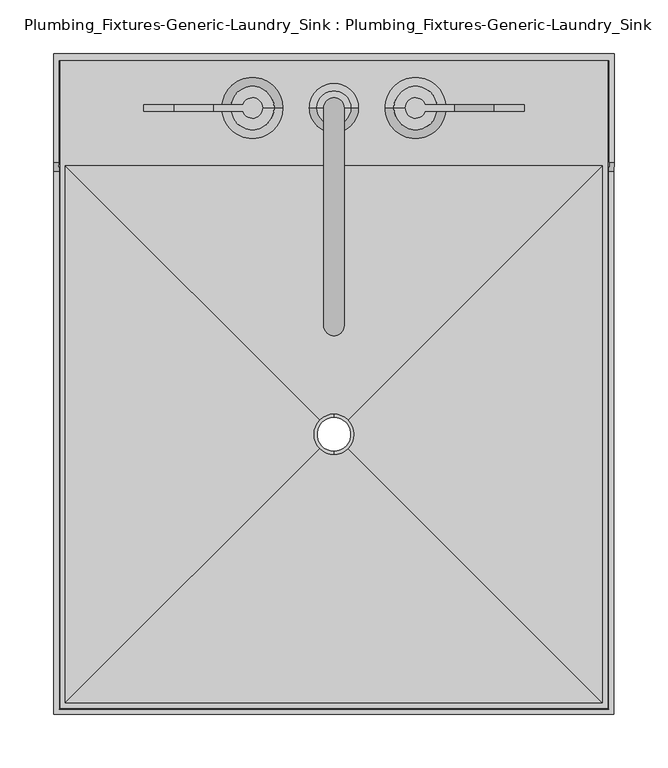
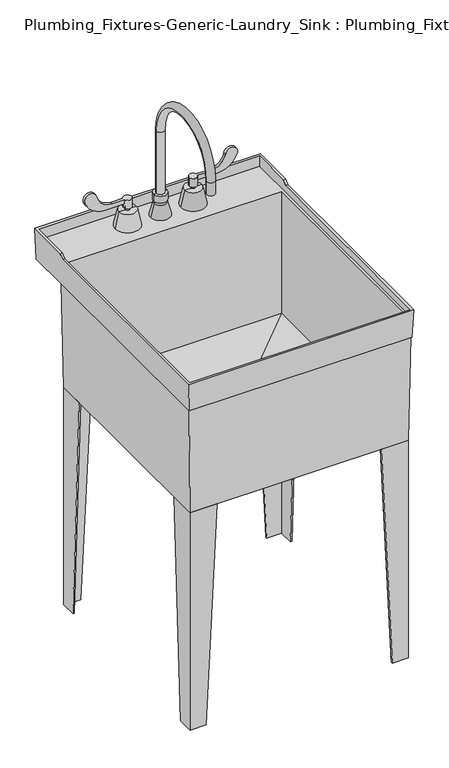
"""IFC4 building model written with IfcOpenShell, lengths in millimetres: flow terminal geometry, Plumbing_Fixtures-Generic-Laundry_Sink : Plumbing_Fixtures-Generic-Laundry_Sink."""

from ifc_helpers import new_model, si_unit, point, frame, frame_2d, origin, place, context, project, spatial, polyline, circle_curve, ellipse_curve, trimmed, segment, composite_curve, outline, extrude, faceted_brep, source, transform, mapped, element, save
from ifc_brep_helpers import plane_surface, cylinder_surface, revolved_surface, advanced_brep


def plumbing_fixtures_generic_laundry_sink_plumbing_fixtures_38895788(model_context):
    return source(origin(), model_context, "Body", "SolidModel", [
        advanced_brep(
        [(129.6645066, 250.825, 894.7546875), (176.757367, 250.825, 926.5046875), (149.5501354, 250.825, 934.8931818), (112.3171633, 250.825, 904.875), (85.1802561, 250.825, 904.875), (85.1802561, 250.825, 894.7546875), (112.3171633, 257.175, 904.875), (149.5501354, 257.175, 934.8931818), (176.757367, 257.175, 926.5046875), (129.6645066, 257.175, 894.7546875), (85.1802561, 257.175, 894.7546875), (85.1802561, 257.175, 904.875), (66.675, 254.0, 904.875), (85.725, 254.0, 894.7546875), (55.959375, 254.0, 877.09375), (96.440625, 254.0, 877.09375), (104.775, 254.0, 838.2), (47.625, 254.0, 838.2), (71.040625, 254.0, 877.09375), (81.359375, 254.0, 877.09375), (71.040625, 254.0, 884.2375), (81.359375, 254.0, 884.2375), (66.675, 254.0, 884.2375), (85.725, 254.0, 884.2375), (76.2, 254.0, 838.2)],
        [
            (0, 1, circle_curve(frame((129.6645066, 250.825, 945.5546875), z_axis=(0.0, -1.0, 0.0), x_axis=(1.0, 0.0, 0.0)), 50.8)),
            (1, 2, circle_curve(frame((163.5125, 250.825, 931.8625), z_axis=(0.0, -1.0, 0.0), x_axis=(1.0, 0.0, 0.0)), 14.2875)),
            (2, 3, circle_curve(frame((112.3171633, 250.825, 942.975), z_axis=(0.0, 1.0, 0.0), x_axis=(1.0, 0.0, 0.0)), 38.1)),
            (3, 4),
            (4, 5),
            (5, 0),
            (6, 7, circle_curve(frame((112.3171633, 257.175, 942.975), z_axis=(0.0, -1.0, 0.0), x_axis=(1.0, 0.0, 0.0)), 38.1)),
            (7, 8, circle_curve(frame((163.5125, 257.175, 931.8625), z_axis=(0.0, 1.0, 0.0), x_axis=(1.0, 0.0, 0.0)), 14.2875)),
            (8, 9, circle_curve(frame((129.6645066, 257.175, 945.5546875), z_axis=(0.0, 1.0, 0.0), x_axis=(1.0, 0.0, 0.0)), 50.8)),
            (9, 10),
            (10, 11),
            (11, 6),
            (3, 6),
            (11, 12, circle_curve(frame((76.2, 254.0, 904.875), z_axis=(0.0, 0.0, 1.0), x_axis=(1.0, 0.0, 0.0)), 9.525)),
            (12, 4, circle_curve(frame((76.2, 254.0, 904.875), z_axis=(0.0, 0.0, 1.0), x_axis=(1.0, 0.0, 0.0)), 9.525)),
            (9, 0),
            (5, 13, circle_curve(frame((76.2, 254.0, 894.7546875), z_axis=(0.0, 0.0, 1.0), x_axis=(1.0, 0.0, 0.0)), 9.525)),
            (13, 10, circle_curve(frame((76.2, 254.0, 894.7546875), z_axis=(0.0, 0.0, 1.0), x_axis=(1.0, 0.0, 0.0)), 9.525)),
            (8, 1),
            (7, 2),
            (14, 15, circle_curve(frame((76.2, 254.0, 877.09375), z_axis=(0.0, 0.0, -1.0), x_axis=(1.0, 0.0, 0.0)), 20.240625)),
            (15, 16),
            (16, 17, circle_curve(frame((76.2, 254.0, 838.2), z_axis=(0.0, 0.0, 1.0), x_axis=(1.0, 0.0, 0.0)), 28.575)),
            (17, 14),
            (15, 14, circle_curve(frame((76.2, 254.0, 877.09375), z_axis=(0.0, 0.0, -1.0), x_axis=(1.0, 0.0, 0.0)), 20.240625)),
            (17, 16, circle_curve(frame((76.2, 254.0, 838.2), z_axis=(0.0, 0.0, 1.0), x_axis=(1.0, 0.0, 0.0)), 28.575)),
            (14, 18),
            (18, 19, circle_curve(frame((76.2, 254.0, 877.09375), z_axis=(0.0, 0.0, -1.0), x_axis=(1.0, 0.0, 0.0)), 5.159375)),
            (19, 15),
            (19, 18, circle_curve(frame((76.2, 254.0, 877.09375), z_axis=(0.0, 0.0, -1.0), x_axis=(1.0, 0.0, 0.0)), 5.159375)),
            (18, 20),
            (20, 21, circle_curve(frame((76.2, 254.0, 884.2375), z_axis=(0.0, 0.0, -1.0), x_axis=(1.0, 0.0, 0.0)), 5.159375)),
            (21, 19),
            (21, 20, circle_curve(frame((76.2, 254.0, 884.2375), z_axis=(0.0, 0.0, -1.0), x_axis=(1.0, 0.0, 0.0)), 5.159375)),
            (20, 22),
            (22, 23, circle_curve(frame((76.2, 254.0, 884.2375), z_axis=(0.0, 0.0, -1.0), x_axis=(1.0, 0.0, 0.0)), 9.525)),
            (23, 21),
            (23, 22, circle_curve(frame((76.2, 254.0, 884.2375), z_axis=(0.0, 0.0, -1.0), x_axis=(1.0, 0.0, 0.0)), 9.525)),
            (22, 12),
            (13, 23),
            (16, 24),
            (24, 17),
        ],
        [
            plane_surface(frame((76.2, 250.825, 904.875), z_axis=(0.0, -1.0, 0.0), x_axis=(-1.0, 0.0, 0.0))),
            plane_surface(frame((76.2, 257.175, 904.875), z_axis=(0.0, 1.0, 0.0), x_axis=(1.0, 0.0, 0.0))),
            plane_surface(frame((112.3171633, 250.825, 904.875), z_axis=(0.0, 0.0, 1.0), x_axis=(0.0, 1.0, 0.0))),
            plane_surface(frame((76.2, 250.825, 894.7546875), z_axis=(0.0, 0.0, -1.0), x_axis=(0.0, 1.0, 0.0))),
            cylinder_surface(frame((129.6645066, 257.175, 945.5546875), z_axis=(0.0, -1.0, 0.0), x_axis=(1.0, 0.0, 0.0)), 50.8),
            cylinder_surface(frame((163.5125, 257.175, 931.8625), z_axis=(0.0, -1.0, 0.0), x_axis=(1.0, 0.0, 0.0)), 14.2875),
            revolved_surface(polyline([(150.4171633, 257.175, 942.975), (150.4171633, 250.825, 942.975)]), (112.3171633, 257.175, 942.975), (0.0, 1.0, 0.0)),
            revolved_surface(polyline([(104.775, 254.0, 838.2), (96.440625, 254.0, 877.09375)]), (76.2, 254.0, 1976.4613422), (0.0, 0.0, 1.0)),
            plane_surface(frame((76.2, 254.0, 877.09375), z_axis=(0.0, 0.0, 1.0), x_axis=(1.0, 0.0, 0.0))),
            cylinder_surface(frame((76.2, 254.0, 1976.4613422), z_axis=(0.0, 0.0, 1.0), x_axis=(1.0, 0.0, 0.0)), 5.159375),
            plane_surface(frame((76.2, 254.0, 884.2375), z_axis=(0.0, 0.0, -1.0), x_axis=(1.0, 0.0, 0.0))),
            cylinder_surface(frame((76.2, 254.0, 1976.4613422), z_axis=(0.0, 0.0, 1.0), x_axis=(1.0, 0.0, 0.0)), 9.525),
            plane_surface(frame((76.2, 254.0, 838.2), z_axis=(0.0, 0.0, -1.0), x_axis=(1.0, 0.0, 0.0))),
        ],
        [
            (0, [[1, 2, 3, 4, 5, 6]]),
            (1, [[7, 8, 9, 10, 11, 12]]),
            (2, [[13, -12, 14, 15, -4]]),
            (3, [[16, -6, 17, 18, -10]]),
            (4, [[-1, -16, -9, 19]]),
            (5, [[-2, -19, -8, 20]]),
            (6, [[-3, -20, -7, -13]]),
            (7, [[21, 22, 23, 24]]),
            (7, [[-22, 25, -24, 26]]),
            (8, [[-21, 27, 28, 29]]),
            (8, [[-25, -29, 30, -27]]),
            (9, [[-28, 31, 32, 33]]),
            (9, [[-30, -33, 34, -31]]),
            (10, [[-32, 35, 36, 37]]),
            (10, [[-34, -37, 38, -35]]),
            (11, [[-36, 39, -14, -11, -18, 40]]),
            (11, [[-38, -40, -17, -5, -15, -39]]),
            (12, [[-23, 41, 42]]),
            (12, [[-26, -42, -41]]),
        ],
    ),
        advanced_brep(
        [(-112.3171633, 250.825, 904.875), (-149.5501354, 250.825, 934.8931818), (-176.757367, 250.825, 926.5046875), (-129.6645066, 250.825, 894.7546875), (-85.1802561, 250.825, 894.7546875), (-85.1802561, 250.825, 904.875), (-129.6645066, 257.175, 894.7546875), (-176.757367, 257.175, 926.5046875), (-149.5501354, 257.175, 934.8931818), (-112.3171633, 257.175, 904.875), (-85.1802561, 257.175, 904.875), (-85.1802561, 257.175, 894.7546875), (-66.675, 254.0, 904.875), (-85.725, 254.0, 894.7546875), (-47.625, 254.0, 838.2), (-104.775, 254.0, 838.2), (-96.440625, 254.0, 877.09375), (-55.959375, 254.0, 877.09375), (-81.359375, 254.0, 877.09375), (-71.040625, 254.0, 877.09375), (-81.359375, 254.0, 884.2375), (-71.040625, 254.0, 884.2375), (-85.725, 254.0, 884.2375), (-66.675, 254.0, 884.2375), (-76.2, 254.0, 838.2)],
        [
            (0, 1, circle_curve(frame((-112.3171633, 250.825, 942.975), z_axis=(0.0, 1.0, 0.0), x_axis=(-1.0, 0.0, 0.0)), 38.1)),
            (1, 2, circle_curve(frame((-163.5125, 250.825, 931.8625), z_axis=(0.0, -1.0, 0.0), x_axis=(-1.0, 0.0, 0.0)), 14.2875)),
            (2, 3, circle_curve(frame((-129.6645066, 250.825, 945.5546875), z_axis=(0.0, -1.0, 0.0), x_axis=(-1.0, 0.0, 0.0)), 50.8)),
            (3, 4),
            (4, 5),
            (5, 0),
            (6, 7, circle_curve(frame((-129.6645066, 257.175, 945.5546875), z_axis=(0.0, 1.0, 0.0), x_axis=(-1.0, 0.0, 0.0)), 50.8)),
            (7, 8, circle_curve(frame((-163.5125, 257.175, 931.8625), z_axis=(0.0, 1.0, 0.0), x_axis=(-1.0, 0.0, 0.0)), 14.2875)),
            (8, 9, circle_curve(frame((-112.3171633, 257.175, 942.975), z_axis=(0.0, -1.0, 0.0), x_axis=(-1.0, 0.0, 0.0)), 38.1)),
            (9, 10),
            (10, 11),
            (11, 6),
            (9, 0),
            (5, 12, circle_curve(frame((-76.2, 254.0, 904.875), z_axis=(0.0, 0.0, 1.0), x_axis=(-1.0, 0.0, 0.0)), 9.525)),
            (12, 10, circle_curve(frame((-76.2, 254.0, 904.875), z_axis=(0.0, 0.0, 1.0), x_axis=(-1.0, 0.0, 0.0)), 9.525)),
            (3, 6),
            (11, 13, circle_curve(frame((-76.2, 254.0, 894.7546875), z_axis=(0.0, 0.0, 1.0), x_axis=(-1.0, 0.0, 0.0)), 9.525)),
            (13, 4, circle_curve(frame((-76.2, 254.0, 894.7546875), z_axis=(0.0, 0.0, 1.0), x_axis=(-1.0, 0.0, 0.0)), 9.525)),
            (2, 7),
            (1, 8),
            (14, 15, circle_curve(frame((-76.2, 254.0, 838.2), z_axis=(0.0, 0.0, 1.0), x_axis=(-1.0, 0.0, 0.0)), 28.575)),
            (15, 16),
            (16, 17, circle_curve(frame((-76.2, 254.0, 877.09375), z_axis=(0.0, 0.0, -1.0), x_axis=(-1.0, 0.0, 0.0)), 20.240625)),
            (17, 14),
            (15, 14, circle_curve(frame((-76.2, 254.0, 838.2), z_axis=(0.0, 0.0, 1.0), x_axis=(-1.0, 0.0, 0.0)), 28.575)),
            (17, 16, circle_curve(frame((-76.2, 254.0, 877.09375), z_axis=(0.0, 0.0, -1.0), x_axis=(-1.0, 0.0, 0.0)), 20.240625)),
            (16, 18),
            (18, 19, circle_curve(frame((-76.2, 254.0, 877.09375), z_axis=(0.0, 0.0, -1.0), x_axis=(-1.0, 0.0, 0.0)), 5.159375)),
            (19, 17),
            (19, 18, circle_curve(frame((-76.2, 254.0, 877.09375), z_axis=(0.0, 0.0, -1.0), x_axis=(-1.0, 0.0, 0.0)), 5.159375)),
            (18, 20),
            (20, 21, circle_curve(frame((-76.2, 254.0, 884.2375), z_axis=(0.0, 0.0, -1.0), x_axis=(-1.0, 0.0, 0.0)), 5.159375)),
            (21, 19),
            (21, 20, circle_curve(frame((-76.2, 254.0, 884.2375), z_axis=(0.0, 0.0, -1.0), x_axis=(-1.0, 0.0, 0.0)), 5.159375)),
            (20, 22),
            (22, 23, circle_curve(frame((-76.2, 254.0, 884.2375), z_axis=(0.0, 0.0, -1.0), x_axis=(-1.0, 0.0, 0.0)), 9.525)),
            (23, 21),
            (23, 22, circle_curve(frame((-76.2, 254.0, 884.2375), z_axis=(0.0, 0.0, -1.0), x_axis=(-1.0, 0.0, 0.0)), 9.525)),
            (22, 13),
            (12, 23),
            (14, 24),
            (24, 15),
        ],
        [
            plane_surface(frame((-150.4171633, 250.825, 942.975), z_axis=(0.0, -1.0, 0.0), x_axis=(0.0, 0.0, 1.0))),
            plane_surface(frame((-150.4171633, 257.175, 942.975), z_axis=(0.0, 1.0, 0.0), x_axis=(0.0, 0.0, -1.0))),
            plane_surface(frame((-76.2, 250.825, 904.875), z_axis=(0.0, 0.0, 1.0), x_axis=(0.0, 1.0, 0.0))),
            plane_surface(frame((-129.6645066, 250.825, 894.7546875), z_axis=(0.0, 0.0, -1.0), x_axis=(0.0, 1.0, 0.0))),
            cylinder_surface(frame((-129.6645066, 257.175, 945.5546875), z_axis=(0.0, -1.0, 0.0), x_axis=(-1.0, 0.0, 0.0)), 50.8),
            cylinder_surface(frame((-163.5125, 257.175, 931.8625), z_axis=(0.0, -1.0, 0.0), x_axis=(-1.0, 0.0, 0.0)), 14.2875),
            revolved_surface(polyline([(-150.4171633, 257.175, 942.975), (-150.4171633, 250.825, 942.975)]), (-112.3171633, 257.175, 942.975), (0.0, 1.0, 0.0)),
            revolved_surface(polyline([(-96.440625, 254.0, 877.09375), (-104.775, 254.0, 838.2)]), (-76.2, 254.0, 1976.4613422), (0.0, 0.0, -1.0)),
            plane_surface(frame((-76.2, 254.0, 877.09375), z_axis=(0.0, 0.0, 1.0), x_axis=(-1.0, 0.0, 0.0))),
            cylinder_surface(frame((-76.2, 254.0, 1976.4613422), z_axis=(0.0, 0.0, -1.0), x_axis=(-1.0, 0.0, 0.0)), 5.159375),
            plane_surface(frame((-76.2, 254.0, 884.2375), z_axis=(0.0, 0.0, -1.0), x_axis=(-1.0, 0.0, 0.0))),
            cylinder_surface(frame((-76.2, 254.0, 1976.4613422), z_axis=(0.0, 0.0, -1.0), x_axis=(-1.0, 0.0, 0.0)), 9.525),
            plane_surface(frame((-76.2, 254.0, 838.2), z_axis=(0.0, 0.0, -1.0), x_axis=(-1.0, 0.0, 0.0))),
        ],
        [
            (0, [[1, 2, 3, 4, 5, 6]]),
            (1, [[7, 8, 9, 10, 11, 12]]),
            (2, [[13, -6, 14, 15, -10]]),
            (3, [[16, -12, 17, 18, -4]]),
            (4, [[-3, 19, -7, -16]]),
            (5, [[-2, 20, -8, -19]]),
            (6, [[-1, -13, -9, -20]]),
            (7, [[21, 22, 23, 24]]),
            (7, [[-22, 25, -24, 26]]),
            (8, [[-23, 27, 28, 29]]),
            (8, [[-26, -29, 30, -27]]),
            (9, [[-28, 31, 32, 33]]),
            (9, [[-30, -33, 34, -31]]),
            (10, [[-32, 35, 36, 37]]),
            (10, [[-34, -37, 38, -35]]),
            (11, [[-36, 39, -17, -11, -15, 40]]),
            (11, [[-38, -40, -14, -5, -18, -39]]),
            (12, [[-21, 41, 42]]),
            (12, [[-25, -42, -41]]),
        ],
    ),
        advanced_brep(
        [(-23.01875, 254.0, 838.2), (23.01875, 254.0, 838.2), (0.0, 254.0, 838.2), (-14.2875, 254.0, 868.3625), (14.2875, 254.0, 868.3625), (-14.2875, 254.0, 876.3), (14.2875, 254.0, 876.3), (-15.875, 254.0, 876.3), (15.875, 254.0, 876.3), (-15.875, 254.0, 892.175), (15.875, 254.0, 892.175), (0.0, 254.0, 892.175)],
        [
            (0, 1, circle_curve(frame((0.0, 254.0, 838.2), z_axis=(0.0, 0.0, -1.0), x_axis=(1.0, 0.0, 0.0)), 23.01875)),
            (1, 2),
            (2, 0),
            (1, 0, circle_curve(frame((0.0, 254.0, 838.2), z_axis=(0.0, 0.0, -1.0), x_axis=(1.0, 0.0, 0.0)), 23.01875)),
            (3, 4, circle_curve(frame((0.0, 254.0, 868.3625), z_axis=(0.0, 0.0, -1.0), x_axis=(1.0, 0.0, 0.0)), 14.2875)),
            (4, 1),
            (0, 3),
            (4, 3, circle_curve(frame((0.0, 254.0, 868.3625), z_axis=(0.0, 0.0, -1.0), x_axis=(1.0, 0.0, 0.0)), 14.2875)),
            (5, 6, circle_curve(frame((0.0, 254.0, 876.3), z_axis=(0.0, 0.0, -1.0), x_axis=(1.0, 0.0, 0.0)), 14.2875)),
            (6, 4),
            (3, 5),
            (6, 5, circle_curve(frame((0.0, 254.0, 876.3), z_axis=(0.0, 0.0, -1.0), x_axis=(1.0, 0.0, 0.0)), 14.2875)),
            (7, 8, circle_curve(frame((0.0, 254.0, 876.3), z_axis=(0.0, 0.0, -1.0), x_axis=(1.0, 0.0, 0.0)), 15.875)),
            (8, 6),
            (5, 7),
            (8, 7, circle_curve(frame((0.0, 254.0, 876.3), z_axis=(0.0, 0.0, -1.0), x_axis=(1.0, 0.0, 0.0)), 15.875)),
            (9, 10, circle_curve(frame((0.0, 254.0, 892.175), z_axis=(0.0, 0.0, -1.0), x_axis=(1.0, 0.0, 0.0)), 15.875)),
            (10, 8),
            (7, 9),
            (10, 9, circle_curve(frame((0.0, 254.0, 892.175), z_axis=(0.0, 0.0, -1.0), x_axis=(1.0, 0.0, 0.0)), 15.875)),
            (11, 10),
            (9, 11),
        ],
        [
            plane_surface(frame((0.0, 254.0, 838.2), z_axis=(0.0, 0.0, -1.0), x_axis=(1.0, 0.0, 0.0))),
            revolved_surface(polyline([(23.01875, 254.0, 838.2), (14.2875, 254.0, 868.3625)]), (0.0, 254.0, 3252.8518666), (0.0, 0.0, 1.0)),
            cylinder_surface(frame((0.0, 254.0, 3252.8518666), z_axis=(0.0, 0.0, 1.0), x_axis=(1.0, 0.0, 0.0)), 14.2875),
            plane_surface(frame((0.0, 254.0, 876.3), z_axis=(0.0, 0.0, -1.0), x_axis=(1.0, 0.0, 0.0))),
            cylinder_surface(frame((0.0, 254.0, 3252.8518666), z_axis=(0.0, 0.0, 1.0), x_axis=(1.0, 0.0, 0.0)), 15.875),
            plane_surface(frame((0.0, 254.0, 892.175), z_axis=(0.0, 0.0, 1.0), x_axis=(1.0, 0.0, 0.0))),
        ],
        [
            (0, [[1, 2, 3]]),
            (0, [[4, -3, -2]]),
            (1, [[5, 6, -1, 7]]),
            (1, [[8, -7, -4, -6]]),
            (2, [[9, 10, -5, 11]]),
            (2, [[12, -11, -8, -10]]),
            (3, [[13, 14, -9, 15]]),
            (3, [[16, -15, -12, -14]]),
            (4, [[17, 18, -13, 19]]),
            (4, [[20, -19, -16, -18]]),
            (5, [[21, -17, 22]]),
            (5, [[-22, -20, -21]]),
        ],
    ),
        advanced_brep(
        [(-9.5553297, 254.0, 838.2), (9.5553297, 254.0, 838.2), (-9.5553297, 254.0, 1044.575), (9.5553297, 254.0, 1044.575), (9.5553297, 50.8, 1044.575), (-9.5553297, 50.8, 1044.575), (-9.5553297, 50.8, 1012.825), (9.5553297, 50.8, 1012.825)],
        [
            (0, 1, circle_curve(frame((0.0, 254.0, 838.2), z_axis=(0.0, 0.0, -1.0), x_axis=(1.0, 0.0, 0.0)), 9.5553297)),
            (1, 0, circle_curve(frame((0.0, 254.0, 838.2), z_axis=(0.0, 0.0, -1.0), x_axis=(1.0, 0.0, 0.0)), 9.5553297)),
            (0, 2),
            (2, 3, circle_curve(frame((0.0, 254.0, 1044.575), z_axis=(0.0, 0.0, -1.0), x_axis=(1.0, 0.0, 0.0)), 9.5553297)),
            (3, 1),
            (3, 2, circle_curve(frame((0.0, 254.0, 1044.575), z_axis=(0.0, 0.0, -1.0), x_axis=(1.0, 0.0, 0.0)), 9.5553297)),
            (4, 3, circle_curve(frame((9.5553297, 152.4, 1044.575), z_axis=(-1.0, 0.0, 0.0), x_axis=(0.0, 1.0, 0.0)), 101.6)),
            (2, 5, circle_curve(frame((-9.5553297, 152.4, 1044.575), z_axis=(1.0, 0.0, 0.0), x_axis=(0.0, 1.0, 0.0)), 101.6)),
            (5, 4, circle_curve(frame((0.0, 50.8, 1044.575), z_axis=(0.0, 0.0, 1.0), x_axis=(1.0, 0.0, 0.0)), 9.5553297)),
            (4, 5, circle_curve(frame((0.0, 50.8, 1044.575), z_axis=(0.0, 0.0, 1.0), x_axis=(1.0, 0.0, 0.0)), 9.5553297)),
            (6, 7, circle_curve(frame((0.0, 50.8, 1012.825), z_axis=(0.0, 0.0, -1.0), x_axis=(1.0, 0.0, 0.0)), 9.5553297)),
            (7, 6, circle_curve(frame((0.0, 50.8, 1012.825), z_axis=(0.0, 0.0, -1.0), x_axis=(1.0, 0.0, 0.0)), 9.5553297)),
            (5, 6),
            (7, 4),
        ],
        [
            plane_surface(frame((0.0, 254.0, 838.2), z_axis=(0.0, 0.0, -1.0), x_axis=(1.0, 0.0, 0.0))),
            cylinder_surface(frame((0.0, 254.0, 838.2), z_axis=(0.0, 0.0, -1.0), x_axis=(1.0, 0.0, 0.0)), 9.5553297),
            revolved_surface(trimmed(ellipse_curve(frame((0.0, 254.0, 1044.575), z_axis=(0.0, 0.0, -1.0), x_axis=(1.0, 0.0, 0.0)), 9.5553297, 9.5553297), [point((-9.5553297, 254.0, 1044.575))], [point((9.5553297, 254.0, 1044.575))], True, "CARTESIAN"), (0.0, 152.4, 1044.575), (1.0, 0.0, 0.0)),
            revolved_surface(trimmed(ellipse_curve(frame((0.0, 254.0, 1044.575), z_axis=(0.0, 0.0, -1.0), x_axis=(1.0, 0.0, 0.0)), 9.5553297, 9.5553297), [point((9.5553297, 254.0, 1044.575))], [point((-9.5553297, 254.0, 1044.575))], True, "CARTESIAN"), (0.0, 152.4, 1044.575), (1.0, 0.0, 0.0)),
            plane_surface(frame((0.0, 50.8, 1012.825), z_axis=(0.0, 0.0, -1.0), x_axis=(1.0, 0.0, 0.0))),
            cylinder_surface(frame((0.0, 50.8, 1044.575), z_axis=(0.0, 0.0, 1.0), x_axis=(1.0, 0.0, 0.0)), 9.5553297),
        ],
        [
            (0, [[1, 2]]),
            (1, [[-1, 3, 4, 5]]),
            (1, [[-2, -5, 6, -3]]),
            (2, [[7, -4, 8, 9]]),
            (3, [[-8, -6, -7, 10]]),
            (4, [[11, 12]]),
            (5, [[-9, 13, -12, 14]]),
            (5, [[-10, -14, -11, -13]]),
        ],
    ),
        extrude(outline(composite_curve([segment(trimmed(circle_curve(frame_2d((76.2, 254.0)), 11.8452106), [point((64.3547894, 254.0))], [point((88.0452106, 254.0))], False, "CARTESIAN"), True, "CONTINUOUS"), segment(trimmed(circle_curve(frame_2d((76.2, 254.0)), 11.8452106), [point((88.0452106, 254.0))], [point((64.3547894, 254.0))], False, "CARTESIAN"), True, "CONTINUOUS")], self_intersect=False)), frame((0.0, 0.0, 730.25), z_axis=(0.0, 0.0, 1.0), x_axis=(1.0, 0.0, 0.0)), (0.0, 0.0, 1.0), 107.95),
        extrude(outline(composite_curve([segment(trimmed(circle_curve(frame_2d((-76.2, 254.0)), 12.7), [point((-88.9, 254.0))], [point((-63.5, 254.0))], False, "CARTESIAN"), True, "CONTINUOUS"), segment(trimmed(circle_curve(frame_2d((-76.2, 254.0)), 12.7), [point((-63.5, 254.0))], [point((-88.9, 254.0))], False, "CARTESIAN"), True, "CONTINUOUS")], self_intersect=False)), frame((0.0, 0.0, 730.25), z_axis=(0.0, 0.0, 1.0), x_axis=(1.0, 0.0, 0.0)), (0.0, 0.0, 1.0), 107.95),
        advanced_brep(
        [(-254.0, 304.8, 787.4), (-258.7625, 304.8, 787.4), (-261.9375, 304.8, 863.6), (261.9375, 304.8, 863.6), (258.7625, 304.8, 787.4), (254.0, 304.8, 787.4), (254.0, 304.8, 831.85), (-254.0, 304.8, 831.85), (-261.9375, 203.2, 863.6), (-257.175, 203.2, 863.6), (-257.175, 298.45, 863.6), (257.175, 298.45, 863.6), (257.175, 203.2, 863.6), (261.9375, 203.2, 863.6), (-254.0, 206.375, 787.4), (-257.175, 206.375, 787.4), (-257.175, 203.2, 787.4), (-257.175, -307.975, 787.4), (257.175, -307.975, 787.4), (257.175, 203.2, 787.4), (257.175, 206.375, 787.4), (254.0, 206.375, 787.4), (258.7625, 206.375, 787.4), (258.7625, 203.2, 787.4), (258.7625, -309.5625, 787.4), (-258.7625, -309.5625, 787.4), (-258.7625, 203.2, 787.4), (-258.7625, 206.375, 787.4), (-261.5633227, -312.3633227, 854.6197439), (-261.5633227, 194.2197439, 854.6197439), (261.5633227, -312.3633227, 854.6197439), (261.5633227, 194.2197439, 854.6197439), (-250.825, 200.025, 838.2), (-250.825, 200.025, 539.75), (250.825, 200.025, 539.75), (250.825, 200.025, 838.2), (250.825, -301.625, 539.75), (250.825, -301.625, 838.2), (-250.825, -301.625, 539.75), (-250.825, -301.625, 838.2), (254.0, 203.2, 533.4), (254.0, -304.8, 533.4), (-254.0, -304.8, 533.4), (-254.0, 203.2, 533.4), (0.0, -69.85, 533.4), (0.0, -31.75, 533.4), (-256.1166667, 298.45, 838.2), (256.1166667, 298.45, 838.2), (254.0, 206.375, 831.85), (-254.0, 206.375, 831.85), (0.0, 241.3, 831.85), (0.0, 266.7, 831.85), (76.2, 241.3, 831.85), (76.2, 266.7, 831.85), (-76.2, 241.3, 831.85), (-76.2, 266.7, 831.85), (-256.8008227, -307.6008227, 854.6197439), (-256.1166667, -306.9166667, 838.2), (-256.8008227, 194.2197439, 854.6197439), (256.1166667, -306.9166667, 838.2), (0.0, 266.7, 838.2), (0.0, 241.3, 838.2), (76.2, 266.7, 838.2), (76.2, 241.3, 838.2), (-76.2, 266.7, 838.2), (-76.2, 241.3, 838.2), (256.8008227, -307.6008227, 854.6197439), (256.8008227, 194.2197439, 854.6197439), (-13.4703842, -37.3296158, 536.7455112), (0.0, -31.75, 536.8161392), (13.4703842, -37.3296158, 536.7455112), (13.4703842, -64.2703842, 536.7455112), (0.0, -69.85, 536.8161392), (-13.4703842, -64.2703842, 536.7455112)],
        [
            (0, 1),
            (1, 2),
            (2, 3),
            (3, 4),
            (4, 5),
            (5, 6),
            (6, 7),
            (7, 0),
            (2, 8),
            (8, 9),
            (9, 10),
            (10, 11),
            (11, 12),
            (12, 13),
            (13, 3),
            (0, 14),
            (14, 15),
            (15, 16),
            (16, 17),
            (17, 18),
            (18, 19),
            (19, 20),
            (20, 21),
            (21, 5),
            (4, 22),
            (22, 23),
            (23, 24),
            (24, 25),
            (25, 26),
            (26, 27),
            (27, 1),
            (25, 28),
            (28, 29),
            (29, 8),
            (24, 30),
            (30, 28),
            (13, 31),
            (31, 30),
            (32, 33),
            (33, 34),
            (34, 35),
            (35, 32),
            (34, 36),
            (36, 37),
            (37, 35),
            (36, 38),
            (38, 39),
            (39, 37),
            (40, 41),
            (41, 42),
            (42, 43),
            (43, 40),
            (44, 45, circle_curve(frame((0.0, -50.8, 533.4), z_axis=(0.0, 0.0, 1.0), x_axis=(0.0, -1.0, 0.0)), 19.05)),
            (45, 44, circle_curve(frame((0.0, -50.8, 533.4), z_axis=(0.0, 0.0, 1.0), x_axis=(0.0, -1.0, 0.0)), 19.05)),
            (32, 39),
            (38, 33),
            (10, 46),
            (46, 47),
            (47, 11),
            (6, 48),
            (48, 49),
            (49, 7),
            (50, 51, circle_curve(frame((0.0, 254.0, 831.85), z_axis=(0.0, 0.0, 1.0), x_axis=(0.0, -1.0, 0.0)), 12.7)),
            (51, 50, circle_curve(frame((0.0, 254.0, 831.85), z_axis=(0.0, 0.0, 1.0), x_axis=(0.0, -1.0, 0.0)), 12.7)),
            (52, 53, circle_curve(frame((76.2, 254.0, 831.85), z_axis=(0.0, 0.0, 1.0), x_axis=(0.0, -1.0, 0.0)), 12.7)),
            (53, 52, circle_curve(frame((76.2, 254.0, 831.85), z_axis=(0.0, 0.0, 1.0), x_axis=(0.0, -1.0, 0.0)), 12.7)),
            (54, 55, circle_curve(frame((-76.2, 254.0, 831.85), z_axis=(0.0, 0.0, 1.0), x_axis=(0.0, -1.0, 0.0)), 12.7)),
            (55, 54, circle_curve(frame((-76.2, 254.0, 831.85), z_axis=(0.0, 0.0, 1.0), x_axis=(0.0, -1.0, 0.0)), 12.7)),
            (48, 21),
            (21, 14),
            (14, 49),
            (43, 15),
            (20, 40),
            (18, 41),
            (17, 42),
            (56, 57),
            (57, 46),
            (9, 58),
            (58, 56),
            (57, 59),
            (59, 47),
            (60, 61, circle_curve(frame((0.0, 254.0, 838.2), z_axis=(0.0, 0.0, -1.0), x_axis=(0.0, -1.0, 0.0)), 12.7)),
            (61, 60, circle_curve(frame((0.0, 254.0, 838.2), z_axis=(0.0, 0.0, -1.0), x_axis=(0.0, -1.0, 0.0)), 12.7)),
            (62, 63, circle_curve(frame((76.2, 254.0, 838.2), z_axis=(0.0, 0.0, -1.0), x_axis=(0.0, -1.0, 0.0)), 12.7)),
            (63, 62, circle_curve(frame((76.2, 254.0, 838.2), z_axis=(0.0, 0.0, -1.0), x_axis=(0.0, -1.0, 0.0)), 12.7)),
            (64, 65, circle_curve(frame((-76.2, 254.0, 838.2), z_axis=(0.0, 0.0, -1.0), x_axis=(0.0, -1.0, 0.0)), 12.7)),
            (65, 64, circle_curve(frame((-76.2, 254.0, 838.2), z_axis=(0.0, 0.0, -1.0), x_axis=(0.0, -1.0, 0.0)), 12.7)),
            (56, 66),
            (66, 59),
            (66, 67),
            (67, 12),
            (33, 68),
            (68, 69, ellipse_curve(frame((0.0, -50.8, 536.575), z_axis=(0.0, 0.012657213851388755, -0.9999198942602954), x_axis=(0.0, -0.9999198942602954, -0.012657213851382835)), 19.0515261, 19.05)),
            (69, 70, ellipse_curve(frame((0.0, -50.8, 536.575), z_axis=(0.0, 0.012657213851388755, -0.9999198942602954), x_axis=(0.0, -0.9999198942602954, -0.012657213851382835)), 19.0515261, 19.05)),
            (70, 34),
            (70, 71, ellipse_curve(frame((0.0, -50.8, 536.575), z_axis=(0.012657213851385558, 0.0, -0.9999198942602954), x_axis=(-0.9999198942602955, 0.0, -0.012657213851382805)), 19.0515261, 19.05)),
            (71, 36),
            (71, 72, ellipse_curve(frame((0.0, -50.8, 536.575), z_axis=(0.0, -0.012657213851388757, -0.9999198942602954), x_axis=(0.0, 0.9999198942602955, -0.012657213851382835)), 19.0515261, 19.05)),
            (72, 73, ellipse_curve(frame((0.0, -50.8, 536.575), z_axis=(0.0, -0.012657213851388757, -0.9999198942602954), x_axis=(0.0, 0.9999198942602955, -0.012657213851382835)), 19.0515261, 19.05)),
            (73, 38),
            (73, 68, ellipse_curve(frame((0.0, -50.8, 536.575), z_axis=(-0.012657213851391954, 0.0, -0.9999198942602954), x_axis=(0.9999198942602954, 0.0, -0.012657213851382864)), 19.0515261, 19.05)),
            (69, 45),
            (44, 72),
            (58, 29),
            (31, 67),
            (50, 61),
            (60, 51),
            (52, 63),
            (62, 53),
            (54, 65),
            (64, 55),
        ],
        [
            plane_surface(frame((-254.0, 304.8, 863.6), z_axis=(0.0, 1.0, 0.0), x_axis=(0.0, 0.0, 1.0))),
            plane_surface(frame((-261.9375, 304.8, 863.6), z_axis=(0.0, 0.0, 1.0), x_axis=(0.0, -1.0, 0.0))),
            plane_surface(frame((-254.0, 304.8, 787.4), z_axis=(0.0, 0.0, -1.0), x_axis=(0.0, -1.0, 0.0))),
            plane_surface(frame((-258.7625, 304.8, 787.4), z_axis=(-0.9991330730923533, 0.0, -0.04163054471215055), x_axis=(0.0, -1.0, 0.0))),
            plane_surface(frame((-258.7625, -309.5625, 787.4), z_axis=(0.0, -0.9991330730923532, -0.041630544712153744), x_axis=(1.0, 0.0, 0.0))),
            plane_surface(frame((258.7625, -309.5625, 787.4), z_axis=(0.9991330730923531, 0.0, -0.04163054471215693), x_axis=(0.0, 1.0, 0.0))),
            plane_surface(frame((-250.825, 200.025, 539.75), z_axis=(0.0, -1.0, 0.0), x_axis=(1.0, 0.0, 0.0))),
            plane_surface(frame((250.825, 200.025, 539.75), z_axis=(-1.0, 0.0, 0.0), x_axis=(0.0, -1.0, 0.0))),
            plane_surface(frame((250.825, -301.625, 539.75), z_axis=(0.0, 1.0, 0.0), x_axis=(-1.0, 0.0, 0.0))),
            plane_surface(frame((-254.0, -304.8, 533.4), z_axis=(0.0, 0.0, -1.0), x_axis=(0.0, 1.0, 0.0))),
            plane_surface(frame((-250.825, -301.625, 539.75), z_axis=(1.0, 0.0, 0.0), x_axis=(0.0, 1.0, 0.0))),
            plane_surface(frame((-258.7625, 298.45, 838.2), z_axis=(0.0, -1.0, 0.0), x_axis=(1.0, 0.0, 0.0))),
            plane_surface(frame((-258.7625, 304.8, 831.85), z_axis=(0.0, 0.0, -1.0), x_axis=(1.0, 0.0, 0.0))),
            plane_surface(frame((-258.7625, 206.375, 831.85), z_axis=(0.0, 1.0, 0.0), x_axis=(1.0, 0.0, 0.0))),
            plane_surface(frame((-257.175, 206.375, 787.4), z_axis=(0.0, 0.9999218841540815, -0.012499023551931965), x_axis=(1.0, 0.0, 0.0))),
            plane_surface(frame((257.175, 206.375, 787.4), z_axis=(0.9999218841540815, 0.0, -0.012499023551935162), x_axis=(0.0, -1.0, 0.0))),
            plane_surface(frame((257.175, -307.975, 787.4), z_axis=(0.0, -0.9999218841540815, -0.012499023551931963), x_axis=(-1.0, 0.0, 0.0))),
            plane_surface(frame((-257.175, -307.975, 787.4), z_axis=(-0.9999218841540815, 0.0, -0.012499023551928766), x_axis=(0.0, 1.0, 0.0))),
            plane_surface(frame((-257.175, 304.8, 863.6), z_axis=(0.9991330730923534, 0.0, 0.04163054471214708), x_axis=(0.0, -1.0, 0.0))),
            plane_surface(frame((-256.1166667, 304.8, 838.2), z_axis=(0.0, 0.0, 1.0), x_axis=(0.0, -1.0, 0.0))),
            plane_surface(frame((-254.0, 304.8, 838.2), z_axis=(1.0, 0.0, 0.0), x_axis=(0.0, -1.0, 0.0))),
            plane_surface(frame((-257.175, -307.975, 863.6), z_axis=(0.0, 0.9991330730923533, 0.041630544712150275), x_axis=(1.0, 0.0, 0.0))),
            plane_surface(frame((257.175, -307.975, 863.6), z_axis=(-0.9991330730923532, 0.0, 0.04163054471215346), x_axis=(0.0, 1.0, 0.0))),
            plane_surface(frame((254.0, -304.8, 838.2), z_axis=(-1.0, 0.0, 0.0), x_axis=(0.0, 1.0, 0.0))),
            plane_surface(frame((0.0, -50.8, 536.575), z_axis=(0.0, -0.012657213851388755, 0.9999198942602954), x_axis=(1.0, 0.0, 0.0))),
            plane_surface(frame((0.0, -50.8, 536.575), z_axis=(-0.012657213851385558, 0.0, 0.9999198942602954), x_axis=(0.0, -1.0, 0.0))),
            plane_surface(frame((0.0, -50.8, 536.575), z_axis=(0.0, 0.012657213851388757, 0.9999198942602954), x_axis=(-1.0, 0.0, 0.0))),
            plane_surface(frame((0.0, -50.8, 536.575), z_axis=(0.012657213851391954, 0.0, 0.9999198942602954), x_axis=(0.0, 1.0, 0.0))),
            revolved_surface(polyline([(0.0, -69.85, 533.4), (0.0, -69.85, 536.816139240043)]), (0.0, -50.8, 539.75), (0.0, 0.0, -1.0)),
            plane_surface(frame((304.8, -336.55, 854.6197439), z_axis=(0.0, 0.0, 1.0), x_axis=(-1.0, 0.0, 0.0))),
            plane_surface(frame((304.8, 194.2197439, 854.6197439), z_axis=(0.0, -0.7071067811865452, 0.7071067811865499), x_axis=(-1.0, 0.0, 0.0))),
            revolved_surface(polyline([(0.0, 241.3, 831.85), (0.0, 241.3, 838.2)]), (0.0, 254.0, 838.2), (0.0, 0.0, -1.0)),
            revolved_surface(polyline([(76.2, 241.3, 831.85), (76.2, 241.3, 838.2)]), (76.2, 254.0, 863.6), (0.0, 0.0, -1.0)),
            revolved_surface(polyline([(-76.2, 241.3, 831.85), (-76.2, 241.3, 838.2)]), (-76.2, 254.0, 863.6), (0.0, 0.0, -1.0)),
        ],
        [
            (0, [[1, 2, 3, 4, 5, 6, 7, 8]]),
            (1, [[9, 10, 11, 12, 13, 14, 15, -3]]),
            (2, [[-1, 16, 17, 18, 19, 20, 21, 22, 23, 24, -5, 25, 26, 27, 28, 29, 30, 31]]),
            (3, [[-2, -31, -30, -29, 32, 33, 34, -9]]),
            (4, [[-28, 35, 36, -32]]),
            (5, [[-4, -15, 37, 38, -35, -27, -26, -25]]),
            (6, [[39, 40, 41, 42]]),
            (7, [[-41, 43, 44, 45]]),
            (8, [[-44, 46, 47, 48]]),
            (9, [[49, 50, 51, 52], [53, 54]]),
            (10, [[-39, 55, -47, 56]]),
            (11, [[-12, 57, 58, 59]]),
            (12, [[-7, 60, 61, 62], [63, 64], [65, 66], [67, 68]]),
            (13, [[-61, 69, 70, 71]]),
            (14, [[-52, 72, -17, -70, -23, 73]]),
            (15, [[-49, -73, -22, -21, 74]]),
            (16, [[-50, -74, -20, 75]]),
            (17, [[-51, -75, -19, -18, -72]]),
            (18, [[76, 77, -57, -11, 78, 79]]),
            (19, [[80, 81, -58, -77], [-42, -45, -48, -55], [82, 83], [84, 85], [86, 87]]),
            (20, [[-16, -8, -62, -71]]),
            (21, [[-80, -76, 88, 89]]),
            (22, [[-89, 90, 91, -13, -59, -81]]),
            (23, [[-24, -69, -60, -6]]),
            (24, [[-40, 92, 93, 94, 95]]),
            (25, [[-43, -95, 96, 97]]),
            (26, [[-46, -97, 98, 99, 100]]),
            (27, [[-56, -100, 101, -92]]),
            (28, [[102, -53, 103, -98, -96, -94]]),
            (28, [[-102, -93, -101, -99, -103, -54]]),
            (29, [[104, -33, -36, -38, 105, -90, -88, -79]]),
            (30, [[-104, -78, -10, -34]]),
            (30, [[-105, -37, -14, -91]]),
            (31, [[106, -82, 107, -63]]),
            (31, [[-106, -64, -107, -83]]),
            (32, [[108, -84, 109, -65]]),
            (32, [[-108, -66, -109, -85]]),
            (33, [[110, -86, 111, -67]]),
            (33, [[-110, -68, -111, -87]]),
        ],
    ),
        faceted_brep([(-254.0, -241.3, 533.4), (-254.0, -304.8, 533.4), (-190.5, -304.8, 533.4), (-190.5, -301.625, 533.4), (-250.825, -301.625, 533.4), (-250.825, -241.3, 533.4), (-254.0, -266.7, 0.0), (-250.825, -266.7, 0.0), (-250.825, -301.625, 0.0), (-215.9, -301.625, 0.0), (-215.9, -304.8, 0.0), (-254.0, -304.8, 0.0)], [[[0, 1, 2, 3, 4, 5]], [[6, 7, 8, 9, 10, 11]], [[6, 11, 1, 0]], [[11, 10, 2, 1]], [[10, 9, 3, 2]], [[9, 8, 4, 3]], [[8, 7, 5, 4]], [[7, 6, 0, 5]]]),
        faceted_brep([(254.0, -241.3, 533.4), (250.825, -241.3, 533.4), (250.825, -301.625, 533.4), (190.5, -301.625, 533.4), (190.5, -304.8, 533.4), (254.0, -304.8, 533.4), (254.0, -266.7, 0.0), (254.0, -304.8, 0.0), (215.9, -304.8, 0.0), (215.9, -301.625, 0.0), (250.825, -301.625, 0.0), (250.825, -266.7, 0.0)], [[[0, 1, 2, 3, 4, 5]], [[6, 7, 8, 9, 10, 11]], [[7, 6, 0, 5]], [[8, 7, 5, 4]], [[9, 8, 4, 3]], [[10, 9, 3, 2]], [[11, 10, 2, 1]], [[6, 11, 1, 0]]]),
        faceted_brep([(-254.0, 139.7, 533.4), (-250.825, 139.7, 533.4), (-250.825, 200.025, 533.4), (-190.5, 200.025, 533.4), (-190.5, 203.2, 533.4), (-254.0, 203.2, 533.4), (-254.0, 165.1, 0.0), (-254.0, 203.2, 0.0), (-215.9, 203.2, 0.0), (-215.9, 200.025, 0.0), (-250.825, 200.025, 0.0), (-250.825, 165.1, 0.0)], [[[0, 1, 2, 3, 4, 5]], [[6, 7, 8, 9, 10, 11]], [[7, 6, 0, 5]], [[8, 7, 5, 4]], [[9, 8, 4, 3]], [[10, 9, 3, 2]], [[11, 10, 2, 1]], [[6, 11, 1, 0]]]),
        faceted_brep([(254.0, 139.7, 533.4), (254.0, 203.2, 533.4), (190.5, 203.2, 533.4), (190.5, 200.025, 533.4), (250.825, 200.025, 533.4), (250.825, 139.7, 533.4), (254.0, 165.1, 0.0), (250.825, 165.1, 0.0), (250.825, 200.025, 0.0), (215.9, 200.025, 0.0), (215.9, 203.2, 0.0), (254.0, 203.2, 0.0)], [[[0, 1, 2, 3, 4, 5]], [[6, 7, 8, 9, 10, 11]], [[6, 11, 1, 0]], [[11, 10, 2, 1]], [[10, 9, 3, 2]], [[9, 8, 4, 3]], [[8, 7, 5, 4]], [[7, 6, 0, 5]]]),
        advanced_brep(
        [(0.0, -34.9249953, 536.896519), (0.0, -66.6750047, 536.896519), (0.0, -66.6750047, 454.5072786), (0.0, -34.9249953, 454.5072786), (0.0, -69.8500047, 454.5072786), (0.0, -31.7499953, 454.5072786), (0.0, -25.3999953, 536.896519), (0.0, -76.2000047, 536.896519), (0.0, -25.3999953, 530.225), (0.0, -76.2000047, 530.225), (0.0, -31.7499953, 530.225), (0.0, -69.8500047, 530.225)],
        [
            (0, 1, circle_curve(frame((0.0, -50.8, 536.896519), z_axis=(0.0, 0.0, 1.0), x_axis=(0.0, -1.0, 0.0)), 15.8750047)),
            (1, 2),
            (2, 3, circle_curve(frame((0.0, -50.8, 454.5072786), z_axis=(0.0, 0.0, -1.0), x_axis=(0.0, -1.0, 0.0)), 15.8750047)),
            (3, 0),
            (1, 0, circle_curve(frame((0.0, -50.8, 536.896519), z_axis=(0.0, 0.0, 1.0), x_axis=(0.0, -1.0, 0.0)), 15.8750047)),
            (3, 2, circle_curve(frame((0.0, -50.8, 454.5072786), z_axis=(0.0, 0.0, -1.0), x_axis=(0.0, -1.0, 0.0)), 15.8750047)),
            (2, 4),
            (4, 5, circle_curve(frame((0.0, -50.8, 454.5072786), z_axis=(0.0, 0.0, -1.0), x_axis=(0.0, -1.0, 0.0)), 19.0500047)),
            (5, 3),
            (5, 4, circle_curve(frame((0.0, -50.8, 454.5072786), z_axis=(0.0, 0.0, -1.0), x_axis=(0.0, -1.0, 0.0)), 19.0500047)),
            (6, 7, circle_curve(frame((0.0, -50.8, 536.896519), z_axis=(0.0, 0.0, 1.0), x_axis=(0.0, -1.0, 0.0)), 25.4000047)),
            (7, 1),
            (0, 6),
            (7, 6, circle_curve(frame((0.0, -50.8, 536.896519), z_axis=(0.0, 0.0, 1.0), x_axis=(0.0, -1.0, 0.0)), 25.4000047)),
            (8, 9, circle_curve(frame((0.0, -50.8, 530.225), z_axis=(0.0, 0.0, 1.0), x_axis=(0.0, -1.0, 0.0)), 25.4000047)),
            (9, 7),
            (6, 8),
            (9, 8, circle_curve(frame((0.0, -50.8, 530.225), z_axis=(0.0, 0.0, 1.0), x_axis=(0.0, -1.0, 0.0)), 25.4000047)),
            (10, 11, circle_curve(frame((0.0, -50.8, 530.225), z_axis=(0.0, 0.0, 1.0), x_axis=(0.0, -1.0, 0.0)), 19.0500047)),
            (11, 9),
            (8, 10),
            (11, 10, circle_curve(frame((0.0, -50.8, 530.225), z_axis=(0.0, 0.0, 1.0), x_axis=(0.0, -1.0, 0.0)), 19.0500047)),
            (4, 11),
            (10, 5),
        ],
        [
            revolved_surface(polyline([(0.0, -66.6750047, 454.5072786), (0.0, -66.6750047, 536.896519)]), (0.0, -50.8, 660.4), (0.0, 0.0, -1.0)),
            plane_surface(frame((0.0, -50.8, 454.5072786), z_axis=(0.0, 0.0, -1.0), x_axis=(0.0, -1.0, 0.0))),
            plane_surface(frame((0.0, -50.8, 536.896519), z_axis=(0.0, 0.0, 1.0), x_axis=(0.0, -1.0, 0.0))),
            cylinder_surface(frame((0.0, -50.8, 660.4), z_axis=(0.0, 0.0, -1.0), x_axis=(0.0, -1.0, 0.0)), 25.4000047),
            plane_surface(frame((0.0, -50.8, 530.225), z_axis=(0.0, 0.0, -1.0), x_axis=(0.0, -1.0, 0.0))),
            cylinder_surface(frame((0.0, -50.8, 660.4), z_axis=(0.0, 0.0, -1.0), x_axis=(0.0, -1.0, 0.0)), 19.0500047),
        ],
        [
            (0, [[1, 2, 3, 4]]),
            (0, [[5, -4, 6, -2]]),
            (1, [[-3, 7, 8, 9]]),
            (1, [[-6, -9, 10, -7]]),
            (2, [[11, 12, -1, 13]]),
            (2, [[14, -13, -5, -12]]),
            (3, [[15, 16, -11, 17]]),
            (3, [[18, -17, -14, -16]]),
            (4, [[19, 20, -15, 21]]),
            (4, [[22, -21, -18, -20]]),
            (5, [[-8, 23, -19, 24]]),
            (5, [[-10, -24, -22, -23]]),
        ],
    ),
    ])


if __name__ == "__main__":
    model = new_model("IFC4")
    model_context = context("Model", 3, world=origin())
    ifc_project = project(units=[si_unit("LENGTHUNIT", "METRE", prefix="MILLI")], contexts=[model_context])
    site = spatial("IfcSite", under=ifc_project)
    building = spatial("IfcBuilding", under=site)
    placement = place(None, origin())
    plumbing_fixtures_generic_laundry_sink_plumbing_fixtures_shape = plumbing_fixtures_generic_laundry_sink_plumbing_fixtures_38895788(model_context)
    element("IfcFlowTerminal", 1, ObjectType="Plumbing_Fixtures-Generic-Laundry_Sink : Plumbing_Fixtures-Generic-Laundry_Sink", at=placement, inside=building, context=model_context, shape_type="MappedRepresentation", body=[
        mapped(plumbing_fixtures_generic_laundry_sink_plumbing_fixtures_shape, transform((0.0, 0.0, 0.0), x_axis=(1.0, 0.0, 0.0), y_axis=(0.0, 1.0, 0.0), z_axis=(0.0, 0.0, 1.0))),
    ])
    save(model, "model.ifc")
